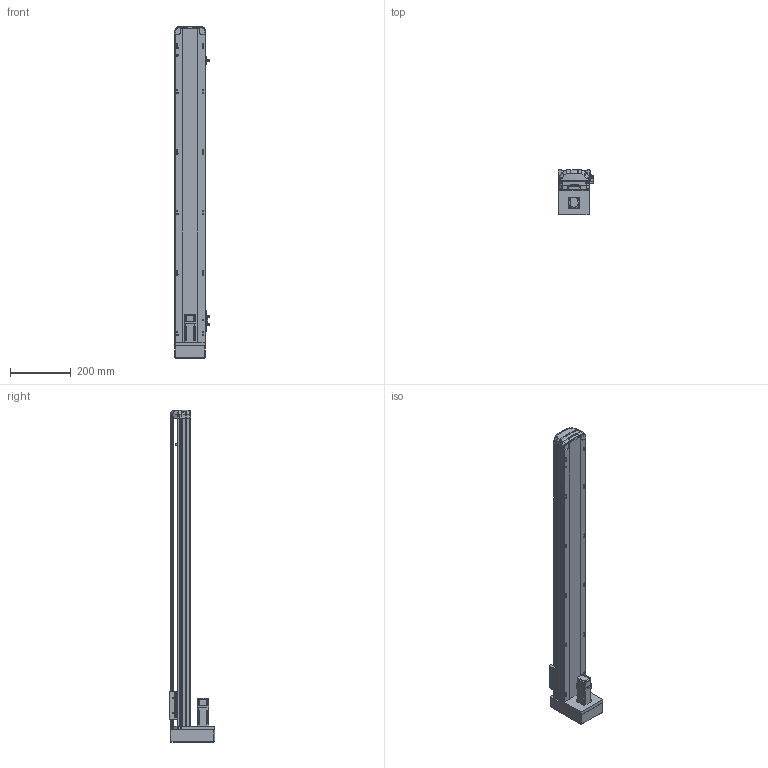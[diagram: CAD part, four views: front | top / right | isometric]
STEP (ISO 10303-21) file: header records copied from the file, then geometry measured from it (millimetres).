
FILE_DESCRIPTION (( 'STEP AP214' ), '1' );
FILE_NAME ('RTH10-XX-850-M-M10-C4.STEP', '2025-10-25T05:47:39', ( 'Microsoft' ), ( 'Microsoft' ), 'SwSTEP 2.0', 'SolidWorks 2018', '' );
FILE_SCHEMA (( 'AUTOMOTIVE_DESIGN' ));
Length unit declared in the file: millimetre
Products named in the file (10): N_RTH12-GY-001P^RTH10-XX-100-M-M10-C4; RTH10-XX-850-M-M10-C4; N_OMRON EE-SX672 传感器^RTH10-XX-100-M-M10-C4; N_P10^RTH10-XX-100-M-M10-C4; N_RTH12-M-018-裔赽^RTH10-XX-100-M-M10-C4; N_RTH12-M-008-萇儂啣^RTH10-XX-100-M-M10-C4; N_RTH13-L-012覜茼え俋离^RTH10-XX-100-M-M10-C4; N_RTH12-GY-004-賑釱^RTH10-XX-100-M-M10-C4; N_RTH12-M-007P-奻裔^RTH10-XX-100-M-M10-C4; N_RTH12-M-011P-臏倰第菁釱^RTH10-XX-100-M-M10-C4
Assembly tree (11 placements, depth 2):
  RTH10-XX-850-M-M10-C4
    N_RTH12-M-011P-臏倰第菁釱^RTH10-XX-100-M-M10-C4
    N_RTH13-L-012覜茼え俋离^RTH10-XX-100-M-M10-C4
    N_OMRON EE-SX672 传感器^RTH10-XX-100-M-M10-C4  x3
    N_P10^RTH10-XX-100-M-M10-C4
    N_RTH12-M-007P-奻裔^RTH10-XX-100-M-M10-C4
    N_RTH12-M-008-萇儂啣^RTH10-XX-100-M-M10-C4
    N_RTH12-M-018-裔赽^RTH10-XX-100-M-M10-C4
    N_RTH12-GY-004-賑釱^RTH10-XX-100-M-M10-C4
    N_RTH12-GY-001P^RTH10-XX-100-M-M10-C4
Bounding box: 116.5 x 149 x 1097.31 mm (x, y, z)
Volume: 4859742.6 mm3; surface area: 727818.5 mm2
Topology: 10 solids, 12 shells, 1953 faces, 5461 edges, 3583 vertices
Faces by surface type: plane 959, cylinder 487, bspline 472, cone 29, sphere 4, torus 2
Entity records: 59009 total; most frequent: CARTESIAN_POINT 23387, ORIENTED_EDGE 7994, DIRECTION 6159, EDGE_CURVE 4003, VERTEX_POINT 2627, LINE 2097, VECTOR 2097, AXIS2_PLACEMENT_3D 2031
